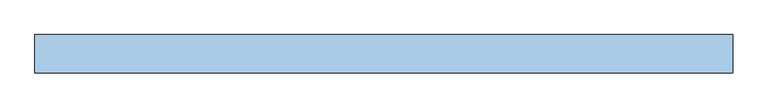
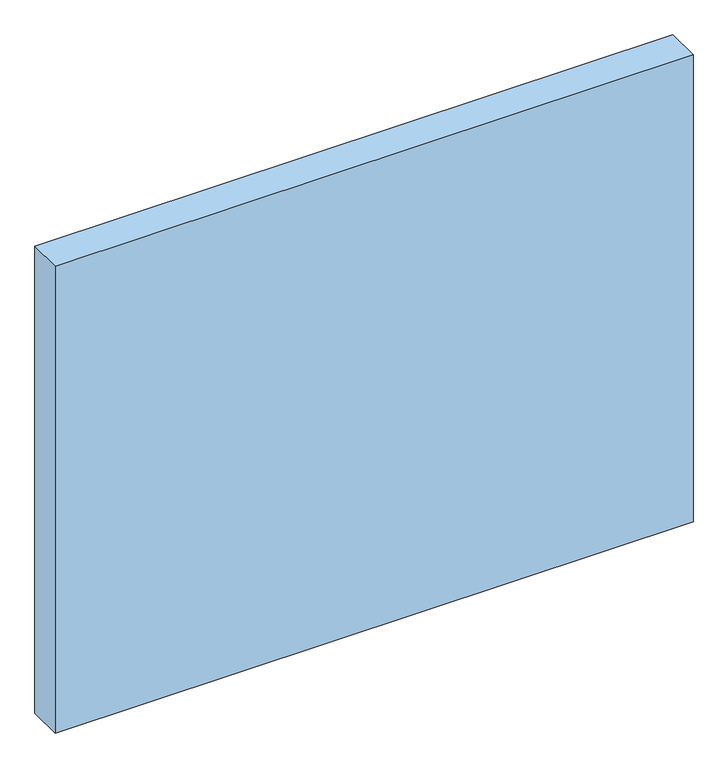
"""IFC4 building model written with IfcOpenShell, lengths in millimetres: window geometry, Dr_Проем-Четверти_окно : ОК."""

import ifcopenshell
import ifcopenshell.guid

model = None  # the IFC model being written
_history = None  # IfcOwnerHistory: only IFC2X3 demands one
_inside = {}  # id of a spatial element -> (the spatial element, [elements in it])
_under = {}  # id of a project, library or spatial element -> (it, [spatial elements below it])
_declared = {}  # id of a project -> (the project, [libraries it declares])
_typed = {}  # id of a type object -> (the type object, [elements of that type])
_made_of = {}  # id of a material, layer set ... -> (it, [elements and type objects made of it])


def new_model(schema):
    """Start an empty IFC model of exactly this schema.

    Asked for "IFC4X3", IfcOpenShell would pick the latest addendum, in which some entities
    have other attributes; the version numbers below select the first issue.
    IFC2X3 requires an IfcOwnerHistory on every rooted entity: one is made here for all.
    """
    global model, _history
    if schema == "IFC4X3":
        model = ifcopenshell.file(schema_version=(4, 3, 0, 0))
    else:
        model = ifcopenshell.file(schema=schema)
    _inside.clear()
    _under.clear()
    _declared.clear()
    _typed.clear()
    _made_of.clear()
    _history = None
    if model.schema == "IFC2X3":
        org = make("IfcOrganization", Name="unknown")
        user = make(
            "IfcPersonAndOrganization",
            ThePerson=make("IfcPerson", FamilyName="unknown"),
            TheOrganization=org,
        )
        app = make(
            "IfcApplication",
            ApplicationDeveloper=org,
            Version="unknown",
            ApplicationFullName="unknown",
            ApplicationIdentifier="unknown",
        )
        _history = make(
            "IfcOwnerHistory",
            OwningUser=user,
            OwningApplication=app,
            ChangeAction="ADDED",
            CreationDate=0,
        )
    return model


def make(cls, **values):
    """One entity of the class cls with the attributes given. An attribute that is None is left unset."""
    return model.create_entity(
        cls, **{name: value for name, value in values.items() if value is not None}
    )


def rooted(cls, **values):
    """An entity with a GlobalId (a new one), such as an element, a storey or a relation."""
    return make(cls, GlobalId=ifcopenshell.guid.new(), OwnerHistory=_history, **values)


def si_unit(unit_type, name, prefix=None):
    """IfcSIUnit, for example si_unit("LENGTHUNIT", "METRE", prefix="MILLI")."""
    return make("IfcSIUnit", UnitType=unit_type, Prefix=prefix, Name=name)


def assignment(units):
    """IfcUnitAssignment: the units of a project."""
    return None if units is None else make("IfcUnitAssignment", Units=units)


def point(xyz):
    """IfcCartesianPoint."""
    return None if xyz is None else make("IfcCartesianPoint", Coordinates=xyz)


def direction(xyz):
    """IfcDirection."""
    return None if xyz is None else make("IfcDirection", DirectionRatios=xyz)


def frame(location, z_axis=None, x_axis=None):
    """IfcAxis2Placement3D, a coordinate frame: its origin and axes. An axis left out is left unset."""
    return make(
        "IfcAxis2Placement3D",
        Location=point(location),
        Axis=direction(z_axis),
        RefDirection=direction(x_axis),
    )


def origin():
    """The frame at (0, 0, 0) with its axes left unset."""
    return frame((0.0, 0.0, 0.0))


def place(relative_to, where):
    """IfcLocalPlacement: puts the frame where relative to a parent placement (None: the world)."""
    return make(
        "IfcLocalPlacement", PlacementRelTo=relative_to, RelativePlacement=where
    )


def context(
    kind, dimensions, precision=None, world=None, true_north=None, identifier=None
):
    """IfcGeometricRepresentationContext, for example the 3D "Model" context."""
    return make(
        "IfcGeometricRepresentationContext",
        ContextIdentifier=identifier,
        ContextType=kind,
        CoordinateSpaceDimension=dimensions,
        Precision=precision,
        WorldCoordinateSystem=world,
        TrueNorth=true_north,
    )


def project(units=None, contexts=None):
    """IfcProject with its units and contexts."""
    return rooted(
        "IfcProject",
        Name="project",
        RepresentationContexts=contexts,
        UnitsInContext=assignment(units),
    )


def spatial(cls, under=None, at=None, **own):
    """A site, building, storey or space (cls), placed at a placement, below another one or the project."""
    s = rooted(cls, ObjectPlacement=at, **own)
    if under is not None:
        _under.setdefault(under.id(), (under, []))[1].append(s)
    return s


def polyline(points):
    """IfcPolyline through the points."""
    return make("IfcPolyline", Points=[point(p) for p in points])


def outline(outer, holes=None, kind="AREA"):
    """IfcArbitraryClosedProfileDef: a profile drawn as a closed curve; with holes, ...WithVoids."""
    if holes is None:
        return make("IfcArbitraryClosedProfileDef", ProfileType=kind, OuterCurve=outer)
    return make(
        "IfcArbitraryProfileDefWithVoids",
        ProfileType=kind,
        OuterCurve=outer,
        InnerCurves=holes,
    )


def extrude(swept, where, along, depth):
    """IfcExtrudedAreaSolid: the profile swept, set in the frame where, extruded along a direction by depth."""
    return make(
        "IfcExtrudedAreaSolid",
        SweptArea=swept,
        Position=where,
        ExtrudedDirection=direction(along),
        Depth=depth,
    )


def shape(context_of_items, identifier, shape_type, items):
    """IfcShapeRepresentation: the items that make up one representation, for example the "Body"."""
    return make(
        "IfcShapeRepresentation",
        ContextOfItems=context_of_items,
        RepresentationIdentifier=identifier,
        RepresentationType=shape_type,
        Items=items,
    )


def source(mapping_origin, context_of_items, identifier, shape_type, items):
    """IfcRepresentationMap: a shape defined once, which mapped items show again and again."""
    return make(
        "IfcRepresentationMap",
        MappingOrigin=mapping_origin,
        MappedRepresentation=shape(context_of_items, identifier, shape_type, items),
    )


def transform(
    local_origin,
    x_axis=None,
    y_axis=None,
    z_axis=None,
    scale=None,
    scale2=None,
    scale3=None,
    uniform=True,
):
    """IfcCartesianTransformationOperator3D, or its non-uniform kind. x_axis, y_axis, z_axis: its Axis1, 2, 3."""
    if uniform:
        return make(
            "IfcCartesianTransformationOperator3D",
            Axis1=direction(x_axis),
            Axis2=direction(y_axis),
            LocalOrigin=point(local_origin),
            Scale=scale,
            Axis3=direction(z_axis),
        )
    return make(
        "IfcCartesianTransformationOperator3DnonUniform",
        Axis1=direction(x_axis),
        Axis2=direction(y_axis),
        LocalOrigin=point(local_origin),
        Scale=scale,
        Axis3=direction(z_axis),
        Scale2=scale2,
        Scale3=scale3,
    )


def mapped(mapping_source, mapping_target):
    """IfcMappedItem: shows the shape of a source again, moved by a transform."""
    return make(
        "IfcMappedItem", MappingSource=mapping_source, MappingTarget=mapping_target
    )


def made_of(thing, what):
    """Note that an element or type object is made of a material, layer set ...; save() writes the relation."""
    if what is not None:
        _made_of.setdefault(what.id(), (what, []))[1].append(thing)
    return thing


def element(
    cls,
    number,
    at=None,
    inside=None,
    cuts=None,
    type_object=None,
    material=None,
    context=None,
    identifier="Body",
    shape_type=None,
    held_by="IfcProductDefinitionShape",
    body=None,
    shapes=None,
    **own,
):
    """One element of the class cls, such as IfcWall. Its Tag is "e" and its number.

    at: its placement. inside: the storey or other place that contains it. cuts: it is an
    opening in that element (IfcRelVoidsElement). A single representation is given by context,
    identifier, shape_type and body (its items); several are given by shapes. held_by: the class
    of the entity that holds the representations. save() writes the other relations.
    """
    e = rooted(cls, Tag="e%d" % number, ObjectPlacement=at, **own)
    if body is not None:
        shapes = [shape(context, identifier, shape_type, body)]
    if shapes is not None:
        e.Representation = make(held_by, Representations=shapes)
    if inside is not None:
        _inside.setdefault(inside.id(), (inside, []))[1].append(e)
    if cuts is not None:
        rooted(
            "IfcRelVoidsElement", RelatingBuildingElement=cuts, RelatedOpeningElement=e
        )
    if type_object is not None:
        _typed.setdefault(type_object.id(), (type_object, []))[1].append(e)
    return made_of(e, material)


def aggregate(whole, parts):
    """IfcRelAggregates: a whole, such as a stair, and the parts it consists of."""
    return rooted("IfcRelAggregates", RelatingObject=whole, RelatedObjects=parts)


def save(model, path):
    """Write the relations noted so far, then the file.

    IfcRelAggregates (storeys below a building ...), IfcRelContainedInSpatialStructure (elements
    in a storey), IfcRelDefinesByType, IfcRelAssociatesMaterial and IfcRelDeclares: one each for
    every whole, place, type object, material and project.
    """
    for whole, parts in _under.values():
        aggregate(whole, parts)
    for where, things in _inside.values():
        rooted(
            "IfcRelContainedInSpatialStructure",
            RelatedElements=things,
            RelatingStructure=where,
        )
    for kind, things in _typed.values():
        rooted("IfcRelDefinesByType", RelatedObjects=things, RelatingType=kind)
    for what, things in _made_of.values():
        rooted("IfcRelAssociatesMaterial", RelatedObjects=things, RelatingMaterial=what)
    for by, libraries in _declared.values():
        rooted("IfcRelDeclares", RelatingContext=by, RelatedDefinitions=libraries)
    model.write(path)


def window_066834b9(model_context):
    return source(origin(), model_context, "Body", "SweptSolid", [
        extrude(outline(polyline([(1505.0, -50.0), (-1235.0, -50.0), (-1235.0, 100.0), (1505.0, 100.0), (1505.0, -50.0)])), frame((0.0, 0.0, -60.0), z_axis=(0.0, 0.0, 1.0), x_axis=(1.0, 0.0, 0.0)), (0.0, 0.0, 1.0), 2120.0),
    ])


if __name__ == "__main__":
    model = new_model("IFC4")
    model_context = context("Model", 3, world=origin())
    ifc_project = project(units=[si_unit("LENGTHUNIT", "METRE", prefix="MILLI")], contexts=[model_context])
    site = spatial("IfcSite", under=ifc_project)
    building = spatial("IfcBuilding", under=site)
    placement = place(None, origin())
    window_shape = window_066834b9(model_context)
    element("IfcWindow", 1, ObjectType="Dr_Проем-Четверти_окно : ОК", at=placement, inside=building, context=model_context, shape_type="MappedRepresentation", body=[
        mapped(window_shape, transform((0.0, 0.0, 0.0), x_axis=(1.0, 0.0, 0.0), y_axis=(0.0, 1.0, 0.0), z_axis=(0.0, 0.0, 1.0))),
    ])
    save(model, "model.ifc")
